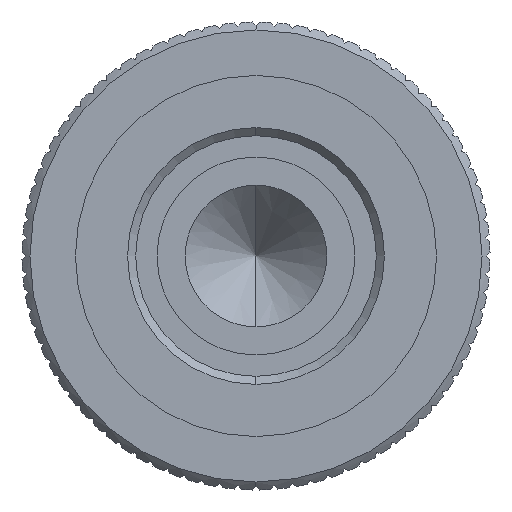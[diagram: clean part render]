
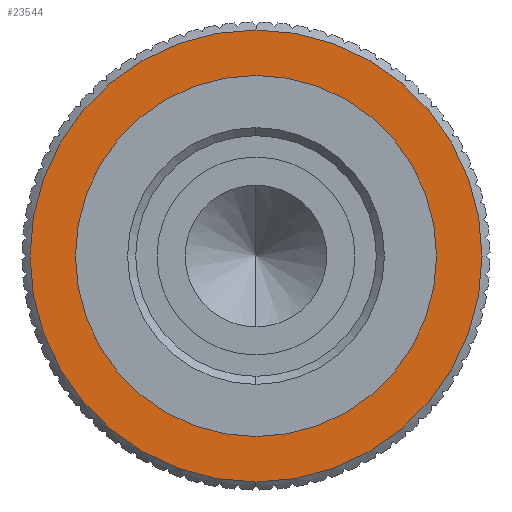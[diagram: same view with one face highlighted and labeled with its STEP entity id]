
A CAD part, front view. The second image highlights one B-rep face of the part: STEP entity #23544.
In plain terms, the highlighted planar face has unit normal (0, -1, 0).
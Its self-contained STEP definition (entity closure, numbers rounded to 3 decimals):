
#6 = DIRECTION ( 'NONE',  ( 0., 0., -1. ) ) ;
#368 = CIRCLE ( 'NONE', #9933, 8.45 ) ;
#502 = DIRECTION ( 'NONE',  ( 0., 0., -1. ) ) ;
#946 = ORIENTED_EDGE ( 'NONE', *, *, #22293, .F. ) ;
#1007 = DIRECTION ( 'NONE',  ( 0., 0., -1. ) ) ;
#1141 = CARTESIAN_POINT ( 'NONE',  ( 0., -10.8, 0. ) ) ;
#2252 = AXIS2_PLACEMENT_3D ( 'NONE', #13184, #10611, #502 ) ;
#2439 = DIRECTION ( 'NONE',  ( 0., -1., 0. ) ) ;
#2822 = CIRCLE ( 'NONE', #17568, 8.45 ) ;
#3291 = DIRECTION ( 'NONE',  ( 0., 0., -1. ) ) ;
#3442 = CIRCLE ( 'NONE', #4318, 6.5 ) ;
#4318 = AXIS2_PLACEMENT_3D ( 'NONE', #6134, #18615, #6 ) ;
#5553 = VERTEX_POINT ( 'NONE', #17357 ) ;
#5951 = PLANE ( 'NONE',  #2252 ) ;
#6134 = CARTESIAN_POINT ( 'NONE',  ( 0., -10.8, 0. ) ) ;
#7019 = ORIENTED_EDGE ( 'NONE', *, *, #17603, .T. ) ;
#7052 = DIRECTION ( 'NONE',  ( 0., 0., -1. ) ) ;
#7258 = VERTEX_POINT ( 'NONE', #18904 ) ;
#7472 = ORIENTED_EDGE ( 'NONE', *, *, #15255, .F. ) ;
#7634 = DIRECTION ( 'NONE',  ( 0., -1., 0. ) ) ;
#9445 = DIRECTION ( 'NONE',  ( 0., -1., 0. ) ) ;
#9933 = AXIS2_PLACEMENT_3D ( 'NONE', #17801, #7634, #3291 ) ;
#10611 = DIRECTION ( 'NONE',  ( 0., -1., 0. ) ) ;
#12006 = EDGE_CURVE ( 'NONE', #13887, #5553, #2822, .T. ) ;
#13184 = CARTESIAN_POINT ( 'NONE',  ( 6.5, -10.8, 0. ) ) ;
#13887 = VERTEX_POINT ( 'NONE', #18693 ) ;
#14730 = EDGE_LOOP ( 'NONE', ( #7019, #19917 ) ) ;
#15255 = EDGE_CURVE ( 'NONE', #15454, #7258, #3442, .T. ) ;
#15454 = VERTEX_POINT ( 'NONE', #21782 ) ;
#16288 = AXIS2_PLACEMENT_3D ( 'NONE', #1141, #9445, #1007 ) ;
#17357 = CARTESIAN_POINT ( 'NONE',  ( 0., -10.8, 8.45 ) ) ;
#17563 = CIRCLE ( 'NONE', #16288, 6.5 ) ;
#17568 = AXIS2_PLACEMENT_3D ( 'NONE', #23310, #2439, #7052 ) ;
#17603 = EDGE_CURVE ( 'NONE', #5553, #13887, #368, .T. ) ;
#17801 = CARTESIAN_POINT ( 'NONE',  ( 0., -10.8, 0. ) ) ;
#18615 = DIRECTION ( 'NONE',  ( 0., -1., 0. ) ) ;
#18693 = CARTESIAN_POINT ( 'NONE',  ( 0., -10.8, -8.45 ) ) ;
#18702 = EDGE_LOOP ( 'NONE', ( #946, #7472 ) ) ;
#18904 = CARTESIAN_POINT ( 'NONE',  ( 0., -10.8, -6.5 ) ) ;
#19917 = ORIENTED_EDGE ( 'NONE', *, *, #12006, .T. ) ;
#20171 = FACE_OUTER_BOUND ( 'NONE', #14730, .T. ) ;
#21782 = CARTESIAN_POINT ( 'NONE',  ( 0., -10.8, 6.5 ) ) ;
#22293 = EDGE_CURVE ( 'NONE', #7258, #15454, #17563, .T. ) ;
#23310 = CARTESIAN_POINT ( 'NONE',  ( 0., -10.8, 0. ) ) ;
#23544 = ADVANCED_FACE ( 'NONE', ( #20171, #24524 ), #5951, .T. ) ;
#24524 = FACE_BOUND ( 'NONE', #18702, .T. ) ;
